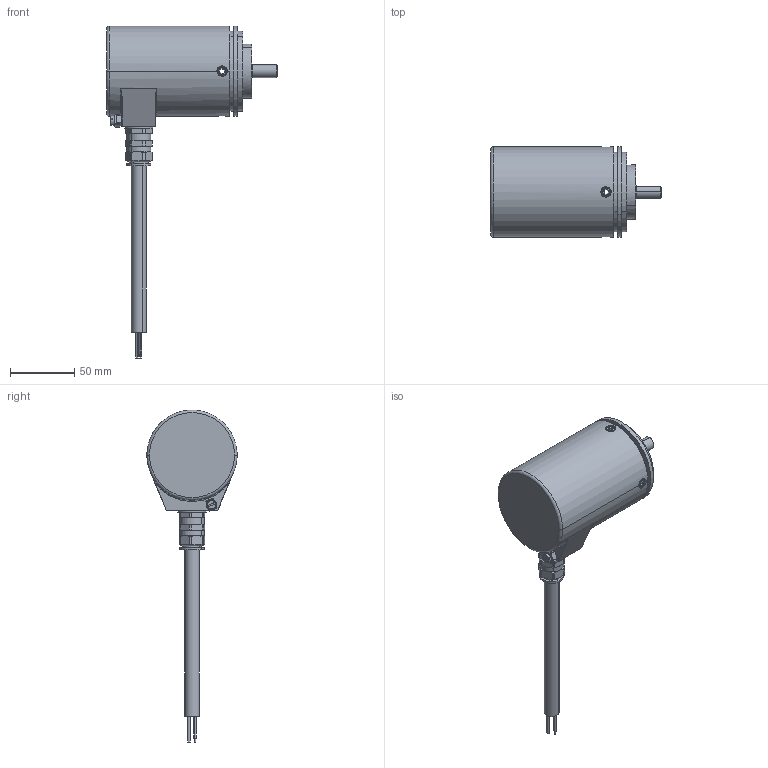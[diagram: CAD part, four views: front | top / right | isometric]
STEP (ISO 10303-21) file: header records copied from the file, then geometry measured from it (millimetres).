
FILE_DESCRIPTION (( 'STEP AP214' ), '1' );
FILE_NAME ('8.7058.1232.XXXX.STEP', '2011-01-27T08:58:35', ( 'admin' ), ( 'Fritz Kübler GmbH' ), 'SwSTEP 2.0', 'SolidWorks 2009', '' );
FILE_SCHEMA (( 'AUTOMOTIVE_DESIGN' ));
Length unit declared in the file: millimetre
Products named in the file (1): 8.7058.1232.XXXX
Bounding box: 132.7 x 70 x 257.7 mm (x, y, z)
Surface area: 47779.7 mm2 (no closed solid volume)
Topology: 0 solids, 22 shells, 313 faces, 802 edges, 514 vertices
Faces by surface type: cylinder 128, plane 127, cone 35, torus 19, bspline 4
Entity records: 13313 total; most frequent: CARTESIAN_POINT 2272, DIRECTION 1663, ORIENTED_EDGE 1433, EDGE_CURVE 798, AXIS2_PLACEMENT_3D 633, VERTEX_POINT 514, VECTOR 397, LINE 397
